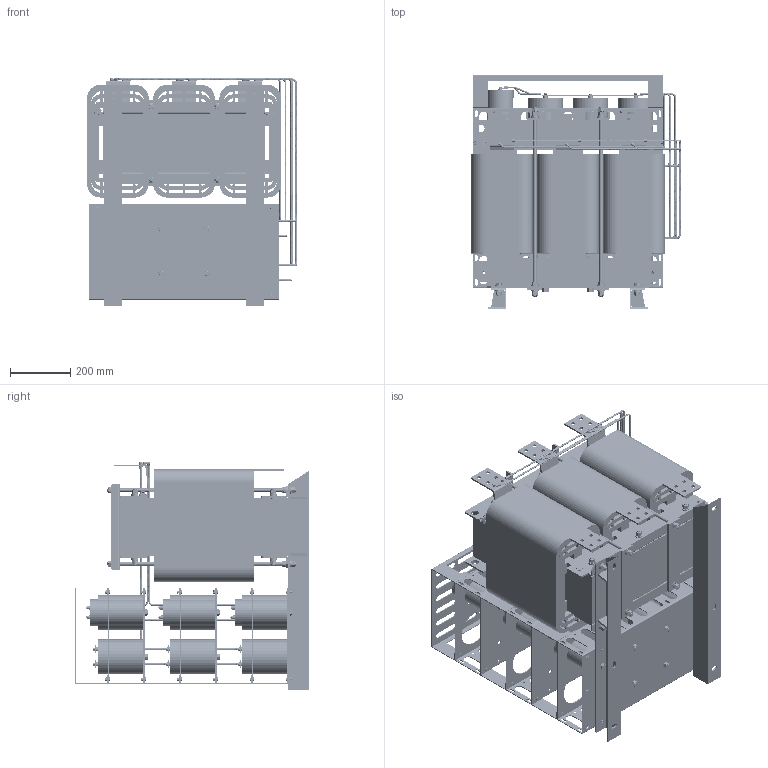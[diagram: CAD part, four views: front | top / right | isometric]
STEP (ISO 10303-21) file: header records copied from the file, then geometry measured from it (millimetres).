
FILE_DESCRIPTION(('STEP AP203'), '1');
FILE_NAME('蔓躅漤铋 耔眢耥 翳朦蝠 _ ISINOF-710_765-6', '', ('UNSPECIFIED'), ('UNSPECIFIED'), 'C3D Converter', 'C3D Toolkit', '');
FILE_SCHEMA(('CONFIG_CONTROL_DESIGN'));
Length unit declared in the file: millimetre
Products named in the file (68): ISINOF-710/765-6; А降еМх560-100-2; ЖЅ豹X2\043504560415\X0\豹X2\0435\X0\12x40x330; ЖЅ豹X2\043504560415\X0\豹X2\0435\X0\20x40x330; ИэПаМъ540-560-191; ЙПјРјю; ПЯИ¦765A; ПВјРјю; №么X2\04270426041C0445\X0\12x10x330; ЖЅ豹X2\043504560415041C0445\X0\12x5x330; plain washers--product grade c gb_GB_FASTENER_WASHER_SMWC 12; spring lock washers--normal type gb_GB_FASTENER_WASHER_SW 12; hexagon nuts grade c gb_GB_FASTENER_NUT_SNC1 M12-N; M12x255; 吒X2\0425\X0\116-150; UРНС№Мх 60x30x6; 琵X2\04270405041504230422\X0\; 琵X2\04270405041504270443\X0\; 琵X2\04370418042D0458042C\X0\; 琵X2\04370418042D0426\X0\吭X2\04560415\X0\; ї琵X2\041E\X0\做зЧУKV223-2P; С№豹X2\0435\X0\; 吒X2\0425\X0\86-175; hex head bolts-full thread grade c gb_GB_FASTENER_BOLT_HHBFTC M12X35-N; M12X630; Б枯X2\0405042304150415\X0\; RNB14-6S; plain washers--product grade c gb_GB_FASTENER_WASHER_SMWC 6; hex head bolts-full thread grade c gb_GB_FASTENER_BOLT_HHBFTC M6X12-N; ёІН苒X2\04120411041504150419041F\X0\; ДёЕЕПВ; spring lock washers--normal type gb_GB_FASTENER_WASHER_SW 6; hexagon nuts grade c gb_GB_FASTENER_NUT_SNC1 M6-N; hex head bolts-full thread grade c gb_GB_FASTENER_BOLT_HHBFTC M6X20-N; Cable_1-ИэПаХэПТІЁВЛІЁЖчSKS-SF-0765-6AЈЇ05-001; 琵X2\043704100412\X0\^Cable_1-ИэПаХэПТІЁВЛІЁЖчSKS-SF-0765-6AЈЇ05-001; Cable_2-ИэПаХэПТІЁВЛІЁЖчSKS-SF-0765-6AЈЇ05; 琵X2\043704100412\X0\^Cable_2-ИэПаХэПТІЁВЛІЁЖчSKS-SF-0765-6AЈЇ05; Cable_4-ИэПаХэПТІЁВЛІЁЖчSKS-SF-0765-6AЈЇ05; 琵X2\043704100412\X0\^Cable_4-ИэПаХэПТІЁВЛІЁЖчSKS-SF-0765-6AЈЇ05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
Assembly tree (485 placements, depth 3):
  ISINOF-710/765-6
    А降еМх560-100-2  x6
    ЖЅ豹X2\043504560415\X0\豹X2\0435\X0\12x40x330  x13
    ЖЅ豹X2\043504560415\X0\豹X2\0435\X0\20x40x330  x6
    ИэПаМъ540-560-191
    ЙПјРјю  x2
    ПЯИ¦765A  x3
    ПВјРјю
    №么X2\04270426041C0445\X0\12x10x330  x24
    ЖЅ豹X2\043504560415041C0445\X0\12x5x330  x12
    plain washers--product grade c gb_GB_FASTENER_WASHER_SMWC 12  x48
    spring lock washers--normal type gb_GB_FASTENER_WASHER_SW 12  x24
    hexagon nuts grade c gb_GB_FASTENER_NUT_SNC1 M12-N  x53
    M12x255  x6
    吒X2\0425\X0\116-150  x18
    UРНС№Мх 60x30x6  x2
    琵X2\04270405041504230422\X0\
    琵X2\04270405041504270443\X0\
    琵X2\04370418042D0458042C\X0\  x3
    琵X2\04370418042D0426\X0\吭X2\04560415\X0\  x4
    ї琵X2\041E\X0\做зЧУKV223-2P
    С№豹X2\0435\X0\  x2
    吒X2\0425\X0\86-175  x3
    hex head bolts-full thread grade c gb_GB_FASTENER_BOLT_HHBFTC M12X35-N  x4
    M12X630  x4
    Б枯X2\0405042304150415\X0\  x12
    RNB14-6S  x30
    plain washers--product grade c gb_GB_FASTENER_WASHER_SMWC 6  x78
    hex head bolts-full thread grade c gb_GB_FASTENER_BOLT_HHBFTC M6X12-N  x62
    ёІН苒X2\04120411041504150419041F\X0\  x3
    ДёЕЕПВ  x3
    spring lock washers--normal type gb_GB_FASTENER_WASHER_SW 6  x6
    hexagon nuts grade c gb_GB_FASTENER_NUT_SNC1 M6-N  x6
    hex head bolts-full thread grade c gb_GB_FASTENER_BOLT_HHBFTC M6X20-N  x6
    Cable_1-ИэПаХэПТІЁВЛІЁЖчSKS-SF-0765-6AЈЇ05-001
      琵X2\043704100412\X0\^Cable_1-ИэПаХэПТІЁВЛІЁЖчSKS-SF-0765-6AЈЇ05-001
    Cable_2-ИэПаХэПТІЁВЛІЁЖчSKS-SF-0765-6AЈЇ05
      琵X2\043704100412\X0\^Cable_2-ИэПаХэПТІЁВЛІЁЖчSKS-SF-0765-6AЈЇ05
    Cable_4-ИэПаХэПТІЁВЛІЁЖчSKS-SF-0765-6AЈЇ05
      琵X2\043704100412\X0\^Cable_4-ИэПаХэПТІЁВЛІЁЖчSKS-SF-0765-6AЈЇ05
    Cable_5-ИэПаХэПТІЁВЛІЁЖчSKS-SF-0765-6AЈЇ05
      琵X2\043704100412\X0\^Cable_5-ИэПаХэПТІЁВЛІЁЖчSKS-SF-0765-6AЈЇ05
    Cable_6-ИэПаХэПТІЁВЛІЁЖчSKS-SF-0765-6AЈЇ05
      琵X2\043704100412\X0\^Cable_6-ИэПаХэПТІЁВЛІЁЖчSKS-SF-0765-6AЈЇ05
    Cable_7-ИэПаХэПТІЁВЛІЁЖчSKS-SF-0765-6AЈЇ05
      琵X2\043704100412\X0\^Cable_7-ИэПаХэПТІЁВЛІЁЖчSKS-SF-0765-6AЈЇ05
    Cable_8-ИэПаХэПТІЁВЛІЁЖчSKS-SF-0765-6AЈЇ05
      琵X2\043704100412\X0\^Cable_8-ИэПаХэПТІЁВЛІЁЖчSKS-SF-0765-6AЈЇ05
    Cable_9-ИэПаХэПТІЁВЛІЁЖчSKS-SF-0765-6AЈЇ05
      琵X2\043704100412\X0\^Cable_9-ИэПаХэПТІЁВЛІЁЖчSKS-SF-0765-6AЈЇ05
    Cable_10-ИэПаХэПТІЁВЛІЁЖчSKS-SF-0765-6AЈЇ05
      琵X2\043704100412\X0\^Cable_10-ИэПаХэПТІЁВЛІЁЖчSKS-SF-0765-6AЈЇ05
    Cable_11-ИэПаХэПТІЁВЛІЁЖчSKS-SF-0765-6AЈЇ05
      琵X2\043704100412\X0\^Cable_11-ИэПаХэПТІЁВЛІЁЖчSKS-SF-0765-6AЈЇ05
    Cable_12-ИэПаХэПТІЁВЛІЁЖчSKS-SF-0765-6AЈЇ05
      琵X2\043704100412\X0\^Cable_12-ИэПаХэПТІЁВЛІЁЖчSKS-SF-0765-6AЈЇ05
    Cable_13-ИэПаХэПТІЁВЛІЁЖчSKS-SF-0765-6AЈЇ05
      琵X2\043704100412\X0\^Cable_13-ИэПаХэПТІЁВЛІЁЖчSKS-SF-0765-6AЈЇ05
    Cable_14-ИэПаХэПТІЁВЛІЁЖчSKS-SF-0765-6AЈЇ05
      琵X2\043704100412\X0\^Cable_14-ИэПаХэПТІЁВЛІЁЖчSKS-SF-0765-6AЈЇ05
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Bounding box: 698.12 x 780 x 759 mm (x, y, z)
Volume: 125321466.1 mm3; surface area: 16179421.9 mm2
Topology: 542 solids, 542 shells, 7157 faces, 16064 edges, 10419 vertices
Faces by surface type: plane 4168, cylinder 2098, cone 783, bspline 66, torus 42
Full cylindrical faces by diameter (mm): 3 x2, 3.8 x2, 4 x4, 4.917 x6, 6 x182, 6.2 x30, 6.4 x30, 6.6 x78, 6.68 x6, 7 x54, 8 x6, 9.88 x6, 10.106 x53, 12 x159, 12.5 x6, 12.9 x24, 13 x24, 13.5 x48, 14 x74, 16 x48, 19.1 x24, 24 x48, 25 x4, 36.4 x1, 38 x1, 40 x1, 63 x6, 75 x6, 86 x6, 90 x6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
Entity records: 106723 total; most frequent: CARTESIAN_POINT 41802, DIRECTION 8629, ORIENTED_EDGE 7598, EDGE_CURVE 3799, AXIS2_PLACEMENT_3D 3115, VERTEX_POINT 2644, LINE 2399, VECTOR 2399
